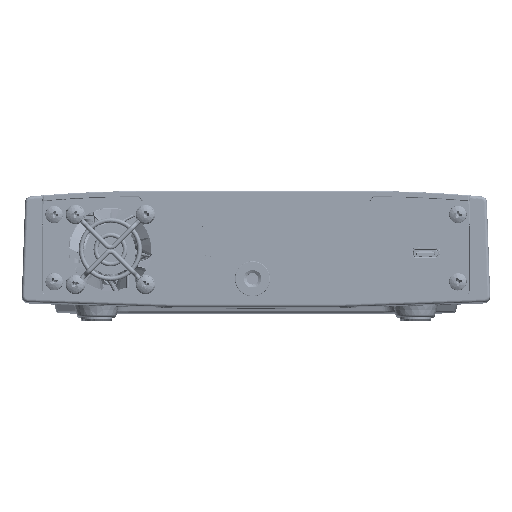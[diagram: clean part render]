
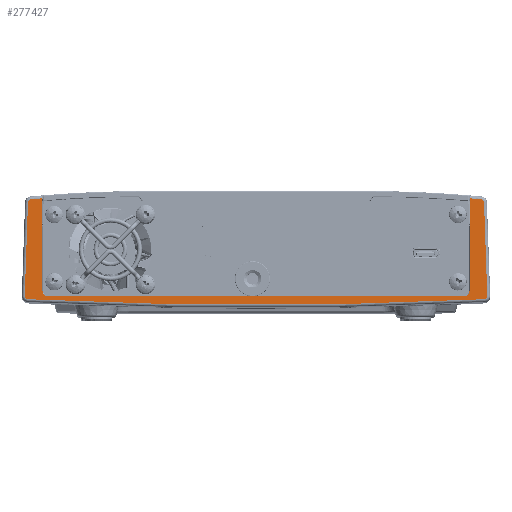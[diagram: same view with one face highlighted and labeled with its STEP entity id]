
A CAD part, top view. The second image highlights one B-rep face of the part: STEP entity #277427.
In plain terms, the highlighted planar face has unit normal (0, 0, 1).
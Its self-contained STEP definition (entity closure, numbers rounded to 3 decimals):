
#2475 = VERTEX_POINT ( 'NONE', #365346 ) ;
#4082 = VECTOR ( 'NONE', #93274, 1000. ) ;
#5327 = AXIS2_PLACEMENT_3D ( 'NONE', #397451, #321419, #254145 ) ;
#9216 = CARTESIAN_POINT ( 'NONE',  ( 151., 8., 279.485 ) ) ;
#9982 = AXIS2_PLACEMENT_3D ( 'NONE', #17629, #136113, #438692 ) ;
#11530 = VERTEX_POINT ( 'NONE', #352018 ) ;
#17629 = CARTESIAN_POINT ( 'NONE',  ( 151., 10., 279.485 ) ) ;
#19128 = LINE ( 'NONE', #397721, #137332 ) ;
#19644 = AXIS2_PLACEMENT_3D ( 'NONE', #245374, #113241, #182577 ) ;
#21505 = ORIENTED_EDGE ( 'NONE', *, *, #270419, .T. ) ;
#22170 = ORIENTED_EDGE ( 'NONE', *, *, #71921, .T. ) ;
#25943 = CARTESIAN_POINT ( 'NONE',  ( 1., 1504., 279.485 ) ) ;
#26465 = VERTEX_POINT ( 'NONE', #425906 ) ;
#27058 = CARTESIAN_POINT ( 'NONE',  ( 157.045, 41.176, 279.485 ) ) ;
#27557 = CARTESIAN_POINT ( 'NONE',  ( 1., 8.032, 279.485 ) ) ;
#30174 = AXIS2_PLACEMENT_3D ( 'NONE', #271751, #374877, #139535 ) ;
#43267 = CARTESIAN_POINT ( 'NONE',  ( 159., 10.117, 279.485 ) ) ;
#44307 = LINE ( 'NONE', #307078, #63505 ) ;
#56185 = CARTESIAN_POINT ( 'NONE',  ( 80., 1504., 279.485 ) ) ;
#58640 = CIRCLE ( 'NONE', #30174, 1. ) ;
#63505 = VECTOR ( 'NONE', #206194, 1000. ) ;
#66026 = CIRCLE ( 'NONE', #273188, 399. ) ;
#70544 = AXIS2_PLACEMENT_3D ( 'NONE', #56185, #192830, #132261 ) ;
#71921 = EDGE_CURVE ( 'NONE', #91061, #285285, #225364, .T. ) ;
#75655 = EDGE_CURVE ( 'NONE', #323338, #347889, #19128, .T. ) ;
#83031 = ORIENTED_EDGE ( 'NONE', *, *, #428289, .T. ) ;
#85034 = AXIS2_PLACEMENT_3D ( 'NONE', #176013, #413580, #350827 ) ;
#85173 = VERTEX_POINT ( 'NONE', #431056 ) ;
#85598 = DIRECTION ( 'NONE',  ( 0., 0., 1. ) ) ;
#86028 = CIRCLE ( 'NONE', #85034, 1. ) ;
#91061 = VERTEX_POINT ( 'NONE', #215149 ) ;
#93274 = DIRECTION ( 'NONE',  ( -0.035, 0.999, 0. ) ) ;
#102104 = CARTESIAN_POINT ( 'NONE',  ( 106.8, 1504.936, 279.485 ) ) ;
#106378 = CIRCLE ( 'NONE', #70544, 1499. ) ;
#106498 = CARTESIAN_POINT ( 'NONE',  ( 156.95, 40.181, 279.485 ) ) ;
#110054 = VERTEX_POINT ( 'NONE', #158050 ) ;
#110357 = LINE ( 'NONE', #116994, #314331 ) ;
#110442 = LINE ( 'NONE', #253673, #212221 ) ;
#113241 = DIRECTION ( 'NONE',  ( 0., 0., -1. ) ) ;
#114807 = DIRECTION ( 'NONE',  ( 0., -1., 0. ) ) ;
#116994 = CARTESIAN_POINT ( 'NONE',  ( 7., 8., 279.485 ) ) ;
#120103 = ORIENTED_EDGE ( 'NONE', *, *, #339162, .T. ) ;
#120589 = CARTESIAN_POINT ( 'NONE',  ( 159., 8.032, 279.485 ) ) ;
#121272 = ORIENTED_EDGE ( 'NONE', *, *, #361903, .T. ) ;
#121594 = EDGE_CURVE ( 'NONE', #26465, #384116, #288811, .T. ) ;
#126616 = DIRECTION ( 'NONE',  ( 0., 1., 0. ) ) ;
#129317 = ORIENTED_EDGE ( 'NONE', *, *, #335401, .T. ) ;
#129890 = VERTEX_POINT ( 'NONE', #27058 ) ;
#131002 = EDGE_CURVE ( 'NONE', #274744, #129890, #220116, .T. ) ;
#132261 = DIRECTION ( 'NONE',  ( -1., 0., 0. ) ) ;
#136113 = DIRECTION ( 'NONE',  ( 0., 0., -1. ) ) ;
#136669 = ORIENTED_EDGE ( 'NONE', *, *, #264016, .F. ) ;
#137332 = VECTOR ( 'NONE', #126616, 1000. ) ;
#139535 = DIRECTION ( 'NONE',  ( -1., 0., 0. ) ) ;
#140851 = ORIENTED_EDGE ( 'NONE', *, *, #270111, .T. ) ;
#141695 = ORIENTED_EDGE ( 'NONE', *, *, #75655, .T. ) ;
#151400 = EDGE_LOOP ( 'NONE', ( #426112, #308002, #253071, #439356, #140851, #21505, #129317, #22170, #120103, #121272, #83031, #141695, #404050, #405113, #277304, #136669 ) ) ;
#151694 = DIRECTION ( 'NONE',  ( 0., 0., 1. ) ) ;
#154711 = CIRCLE ( 'NONE', #412194, 399. ) ;
#157253 = FACE_OUTER_BOUND ( 'NONE', #151400, .T. ) ;
#158050 = CARTESIAN_POINT ( 'NONE',  ( 158.052, 7.033, 279.485 ) ) ;
#173653 = CARTESIAN_POINT ( 'NONE',  ( 7., 8., 279.485 ) ) ;
#176013 = CARTESIAN_POINT ( 'NONE',  ( 158., 8.032, 279.485 ) ) ;
#177053 = CIRCLE ( 'NONE', #5327, 1. ) ;
#178179 = VERTEX_POINT ( 'NONE', #331194 ) ;
#182577 = DIRECTION ( 'NONE',  ( -1., 0., 0. ) ) ;
#187411 = EDGE_CURVE ( 'NONE', #178179, #436909, #255669, .T. ) ;
#192830 = DIRECTION ( 'NONE',  ( 0., 0., 1. ) ) ;
#205042 = LINE ( 'NONE', #173653, #309045 ) ;
#206194 = DIRECTION ( 'NONE',  ( 0., 1., 0. ) ) ;
#211175 = DIRECTION ( 'NONE',  ( -0.035, -0.999, 0. ) ) ;
#211659 = DIRECTION ( 'NONE',  ( -1., 0., 0. ) ) ;
#212221 = VECTOR ( 'NONE', #211175, 1000. ) ;
#215149 = CARTESIAN_POINT ( 'NONE',  ( 1., 10.117, 279.485 ) ) ;
#216805 = CARTESIAN_POINT ( 'NONE',  ( 41.077, -355.999, 279.485 ) ) ;
#220116 = CIRCLE ( 'NONE', #363465, 1. ) ;
#224624 = CARTESIAN_POINT ( 'NONE',  ( 7., 10., 279.485 ) ) ;
#225364 = LINE ( 'NONE', #25943, #430723 ) ;
#232386 = CARTESIAN_POINT ( 'NONE',  ( 2.955, 41.176, 279.485 ) ) ;
#243115 = DIRECTION ( 'NONE',  ( -1., 0., 0. ) ) ;
#245374 = CARTESIAN_POINT ( 'NONE',  ( 9., 10., 279.485 ) ) ;
#251515 = DIRECTION ( 'NONE',  ( 0., 0., -1. ) ) ;
#252035 = EDGE_CURVE ( 'NONE', #347889, #274744, #406818, .T. ) ;
#253071 = ORIENTED_EDGE ( 'NONE', *, *, #187411, .T. ) ;
#253673 = CARTESIAN_POINT ( 'NONE',  ( 53.2, 1504.936, 279.485 ) ) ;
#254145 = DIRECTION ( 'NONE',  ( -1., 0., 0. ) ) ;
#255669 = CIRCLE ( 'NONE', #19644, 2. ) ;
#256596 = EDGE_CURVE ( 'NONE', #354873, #436909, #110357, .T. ) ;
#264016 = EDGE_CURVE ( 'NONE', #26465, #2475, #44307, .T. ) ;
#270111 = EDGE_CURVE ( 'NONE', #354873, #441628, #66026, .T. ) ;
#270164 = EDGE_CURVE ( 'NONE', #178179, #384116, #205042, .T. ) ;
#270419 = EDGE_CURVE ( 'NONE', #441628, #85173, #58640, .T. ) ;
#271751 = CARTESIAN_POINT ( 'NONE',  ( 3.05, 40.181, 279.485 ) ) ;
#273188 = AXIS2_PLACEMENT_3D ( 'NONE', #216805, #319897, #211659 ) ;
#274744 = VERTEX_POINT ( 'NONE', #301503 ) ;
#277304 = ORIENTED_EDGE ( 'NONE', *, *, #334729, .T. ) ;
#277427 = ADVANCED_FACE ( 'NONE', ( #157253 ), #289498, .F. ) ;
#281177 = AXIS2_PLACEMENT_3D ( 'NONE', #430682, #251515, #401367 ) ;
#285285 = VERTEX_POINT ( 'NONE', #27557 ) ;
#288318 = DIRECTION ( 'NONE',  ( -1., 0., 0. ) ) ;
#288811 = CIRCLE ( 'NONE', #9982, 2. ) ;
#289498 = PLANE ( 'NONE',  #281177 ) ;
#301503 = CARTESIAN_POINT ( 'NONE',  ( 157.949, 40.216, 279.485 ) ) ;
#307078 = CARTESIAN_POINT ( 'NONE',  ( 153., 8., 279.485 ) ) ;
#308002 = ORIENTED_EDGE ( 'NONE', *, *, #270164, .F. ) ;
#309045 = VECTOR ( 'NONE', #379834, 1000. ) ;
#314193 = CARTESIAN_POINT ( 'NONE',  ( 7., 41.544, 279.485 ) ) ;
#314331 = VECTOR ( 'NONE', #114807, 1000. ) ;
#319897 = DIRECTION ( 'NONE',  ( 0., 0., 1. ) ) ;
#321419 = DIRECTION ( 'NONE',  ( 0., 0., 1. ) ) ;
#321985 = CARTESIAN_POINT ( 'NONE',  ( 118.923, -355.999, 279.485 ) ) ;
#323338 = VERTEX_POINT ( 'NONE', #120589 ) ;
#331194 = CARTESIAN_POINT ( 'NONE',  ( 9., 8., 279.485 ) ) ;
#334729 = EDGE_CURVE ( 'NONE', #129890, #2475, #154711, .T. ) ;
#335401 = EDGE_CURVE ( 'NONE', #85173, #91061, #110442, .T. ) ;
#339162 = EDGE_CURVE ( 'NONE', #285285, #11530, #177053, .T. ) ;
#347889 = VERTEX_POINT ( 'NONE', #43267 ) ;
#350827 = DIRECTION ( 'NONE',  ( -1., 0., 0. ) ) ;
#352018 = CARTESIAN_POINT ( 'NONE',  ( 1.948, 7.033, 279.485 ) ) ;
#354873 = VERTEX_POINT ( 'NONE', #314193 ) ;
#361903 = EDGE_CURVE ( 'NONE', #11530, #110054, #106378, .T. ) ;
#363465 = AXIS2_PLACEMENT_3D ( 'NONE', #106498, #85598, #243115 ) ;
#365346 = CARTESIAN_POINT ( 'NONE',  ( 153., 41.544, 279.485 ) ) ;
#374877 = DIRECTION ( 'NONE',  ( 0., 0., 1. ) ) ;
#379834 = DIRECTION ( 'NONE',  ( 1., 0., 0. ) ) ;
#384116 = VERTEX_POINT ( 'NONE', #9216 ) ;
#397451 = CARTESIAN_POINT ( 'NONE',  ( 2., 8.032, 279.485 ) ) ;
#397721 = CARTESIAN_POINT ( 'NONE',  ( 159., 1504., 279.485 ) ) ;
#397916 = DIRECTION ( 'NONE',  ( 0., -1., 0. ) ) ;
#401367 = DIRECTION ( 'NONE',  ( -1., 0., 0. ) ) ;
#404050 = ORIENTED_EDGE ( 'NONE', *, *, #252035, .T. ) ;
#405113 = ORIENTED_EDGE ( 'NONE', *, *, #131002, .T. ) ;
#406818 = LINE ( 'NONE', #102104, #4082 ) ;
#412194 = AXIS2_PLACEMENT_3D ( 'NONE', #321985, #151694, #288318 ) ;
#413580 = DIRECTION ( 'NONE',  ( 0., 0., 1. ) ) ;
#425906 = CARTESIAN_POINT ( 'NONE',  ( 153., 10., 279.485 ) ) ;
#426112 = ORIENTED_EDGE ( 'NONE', *, *, #121594, .T. ) ;
#428289 = EDGE_CURVE ( 'NONE', #110054, #323338, #86028, .T. ) ;
#430682 = CARTESIAN_POINT ( 'NONE',  ( 80., 1504., 279.485 ) ) ;
#430723 = VECTOR ( 'NONE', #397916, 1000. ) ;
#431056 = CARTESIAN_POINT ( 'NONE',  ( 2.051, 40.216, 279.485 ) ) ;
#436909 = VERTEX_POINT ( 'NONE', #224624 ) ;
#438692 = DIRECTION ( 'NONE',  ( -1., 0., 0. ) ) ;
#439356 = ORIENTED_EDGE ( 'NONE', *, *, #256596, .F. ) ;
#441628 = VERTEX_POINT ( 'NONE', #232386 ) ;
